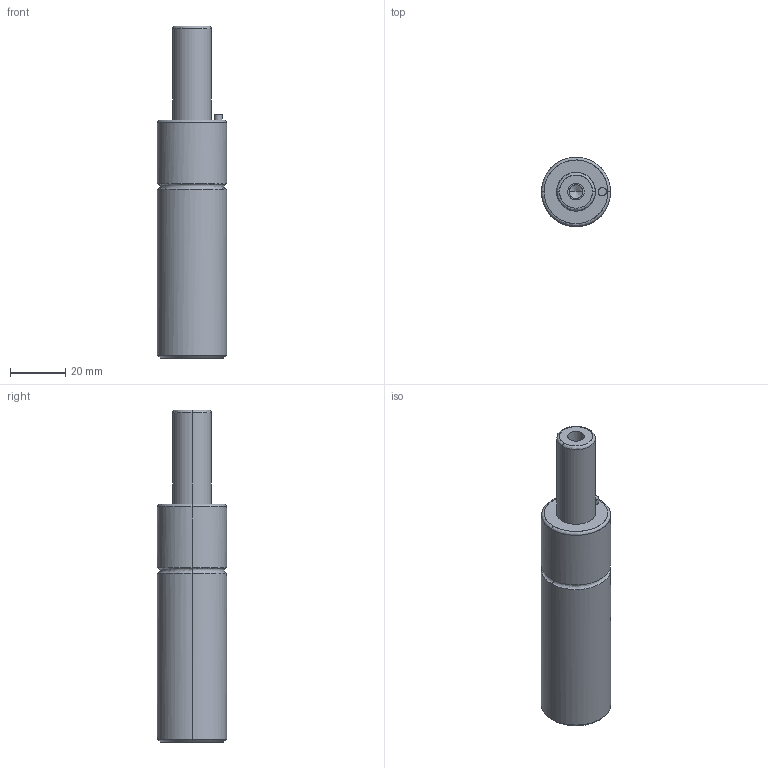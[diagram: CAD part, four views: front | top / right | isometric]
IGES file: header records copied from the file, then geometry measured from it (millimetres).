
Global section: file name: E:\UnigraphicsGraphicData\MISUMI_PRESS-PARTS\IGES\3d_gsm25-32_03893_r00.igs; native system: NX V5.0; preprocessor: UGS NX IGES V5.0; author: MISUMI; date: 20110105.160807; units: millimetre
Bounding box: 25 x 24.96 x 120 mm (x, y, z)
Surface area: 9593.9 mm2 (no closed solid volume)
Topology: 0 solids, 0 shells, 34 faces, 208 edges, 204 vertices
Faces by surface type: bspline 34
